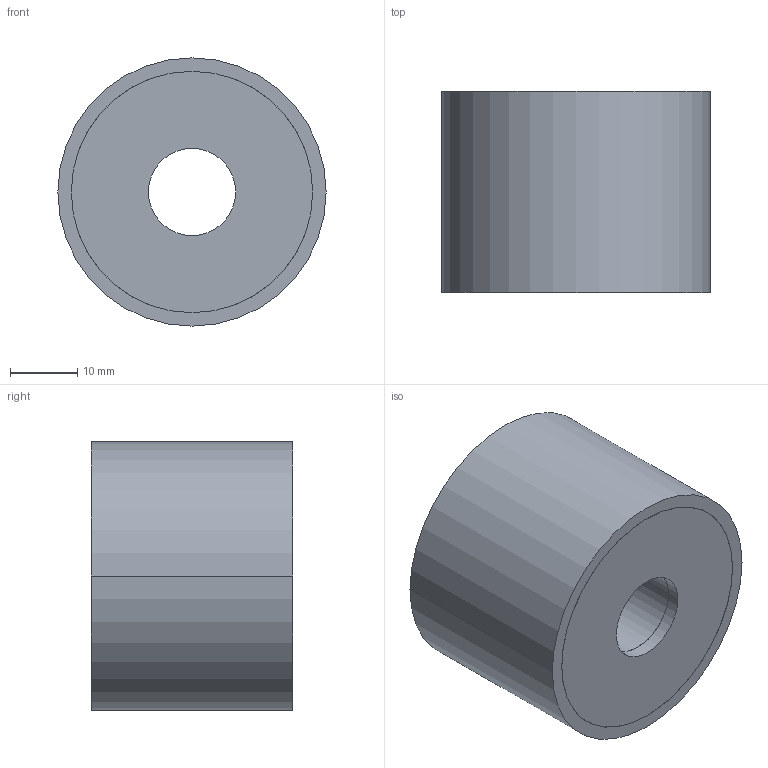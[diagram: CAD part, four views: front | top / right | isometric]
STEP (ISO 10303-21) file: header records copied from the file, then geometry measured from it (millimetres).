
FILE_DESCRIPTION (( 'STEP AP214' ), '1' );
FILE_NAME ('351-40-30-13-DD-55.step', '2025-07-23T10:12:48', ( '' ), ( '' ), 'SwSTEP 2.0', 'SolidWorks 2022', '' );
FILE_SCHEMA (( 'AUTOMOTIVE_DESIGN' ));
Length unit declared in the file: millimetre
Products named in the file (1): 351-40-30-13-DD-55
Bounding box: 40 x 30 x 40 mm (x, y, z)
Volume: 33717.1 mm3; surface area: 7249.1 mm2
Topology: 1 solids, 1 shells, 30 faces, 60 edges, 40 vertices
Faces by surface type: cylinder 20, plane 10
Entity records: 919 total; most frequent: DIRECTION 162, CARTESIAN_POINT 131, ORIENTED_EDGE 120, AXIS2_PLACEMENT_3D 71, EDGE_CURVE 60, CIRCLE 40, VERTEX_POINT 40, EDGE_LOOP 40
